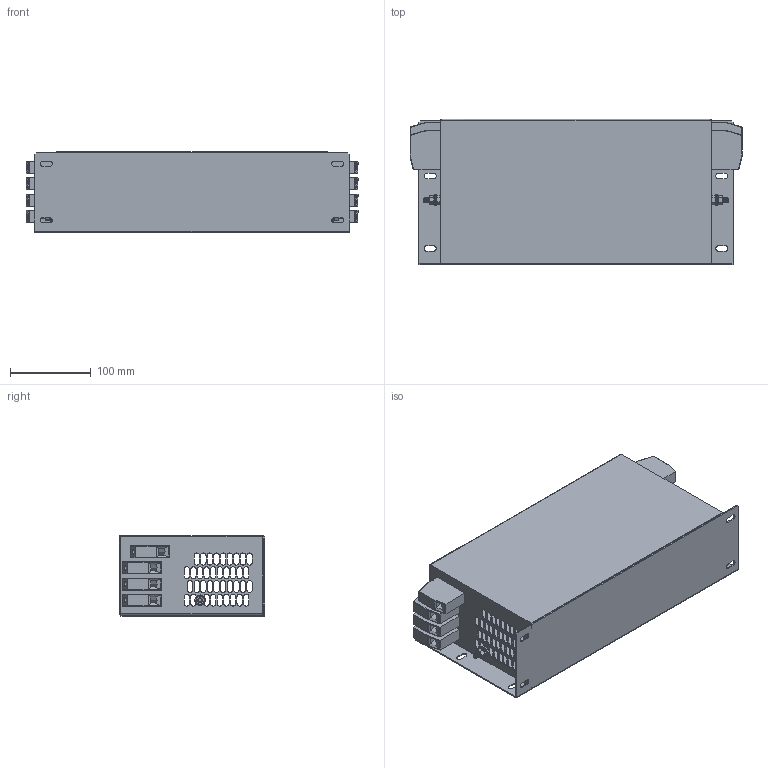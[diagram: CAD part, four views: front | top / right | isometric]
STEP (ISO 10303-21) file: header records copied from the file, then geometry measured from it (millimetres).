
FILE_DESCRIPTION (( 'STEP AP203' ), '1' );
FILE_NAME ('NF-KC-DAR2-64-4.STEP', '2025-09-25T14:28:26', ( '' ), ( '' ), 'SwSTEP 2.0', 'SolidWorks 2017', '' );
FILE_SCHEMA (( 'CONFIG_CONTROL_DESIGN' ));
Length unit declared in the file: millimetre
Products named in the file (7): NF-KC-DAR2-64-4; flat washer narrow_am_B18.22M - Plain washer, 6 mm, narrow; HDFK-25; M6x16 Earth post; hex nut style 1_am_B18.2.4.1M - Hex nut, Style 1,  M6 x 1 --D-N; hex screw_am (dont use)_B18.6.7M - M6 x 1.0 x 16 Indented HHMS --16S
Assembly tree (15 placements, depth 3):
  NF-KC-DAR2-64-4
    NF-KC-DAR2-64-4
    HDFK-25  x8
    M6x16 Earth post  x2
      flat washer narrow_am_B18.22M - Plain washer, 6 mm, narrow
      hex nut style 1_am_B18.2.4.1M - Hex nut, Style 1,  M6 x 1 --D-N
      hex screw_am (dont use)_B18.6.7M - M6 x 1.0 x 16 Indented HHMS --16S
Bounding box: 412.01 x 180 x 100 mm (x, y, z)
Volume: 584881.8 mm3; surface area: 585256.9 mm2
Topology: 19 solids, 19 shells, 1639 faces, 4305 edges, 2754 vertices
Faces by surface type: plane 898, cylinder 555, cone 184, sphere 2
Entity records: 33509 total; most frequent: DIRECTION 5732, CARTESIAN_POINT 5727, ORIENTED_EDGE 5500, EDGE_CURVE 2750, AXIS2_PLACEMENT_3D 2031, VERTEX_POINT 1802, LINE 1670, VECTOR 1670
